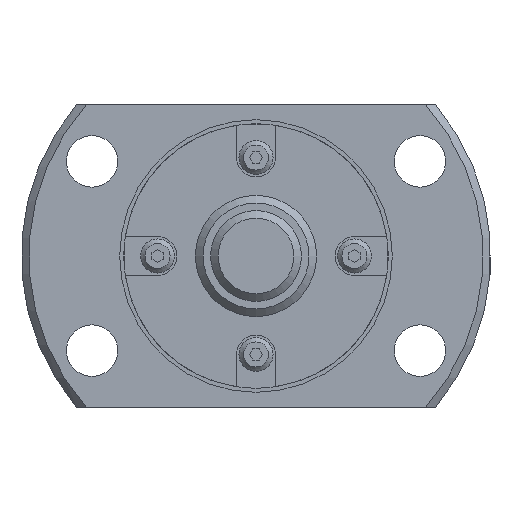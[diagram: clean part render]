
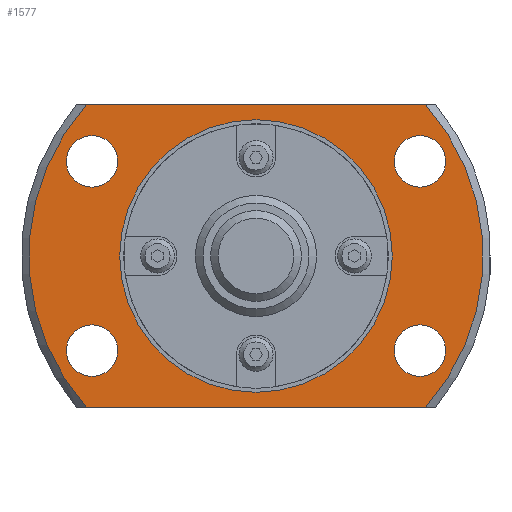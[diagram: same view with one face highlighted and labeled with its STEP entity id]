
A CAD part, left-side view. The second image highlights one B-rep face of the part: STEP entity #1577.
In plain terms, the highlighted planar face has unit normal (-1, 0, 0).
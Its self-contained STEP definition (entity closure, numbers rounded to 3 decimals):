
#102=CIRCLE('',#1724,15.);
#123=CIRCLE('',#1753,8.725);
#124=CIRCLE('',#1755,1.7);
#125=CIRCLE('',#1756,1.7);
#126=CIRCLE('',#1757,1.7);
#127=CIRCLE('',#1758,1.7);
#128=CIRCLE('',#1759,15.);
#294=ORIENTED_EDGE('',*,*,#665,.T.);
#295=ORIENTED_EDGE('',*,*,#666,.T.);
#296=ORIENTED_EDGE('',*,*,#667,.T.);
#297=ORIENTED_EDGE('',*,*,#668,.T.);
#298=ORIENTED_EDGE('',*,*,#622,.F.);
#299=ORIENTED_EDGE('',*,*,#669,.T.);
#300=ORIENTED_EDGE('',*,*,#670,.F.);
#301=ORIENTED_EDGE('',*,*,#671,.T.);
#302=ORIENTED_EDGE('',*,*,#664,.T.);
#622=EDGE_CURVE('',#821,#822,#102,.T.);
#664=EDGE_CURVE('',#858,#858,#123,.T.);
#665=EDGE_CURVE('',#859,#859,#124,.T.);
#666=EDGE_CURVE('',#860,#860,#125,.T.);
#667=EDGE_CURVE('',#861,#861,#126,.T.);
#668=EDGE_CURVE('',#862,#862,#127,.T.);
#669=EDGE_CURVE('',#821,#863,#970,.T.);
#670=EDGE_CURVE('',#864,#863,#128,.T.);
#671=EDGE_CURVE('',#864,#822,#971,.T.);
#821=VERTEX_POINT('',#2481);
#822=VERTEX_POINT('',#2483);
#858=VERTEX_POINT('',#2578);
#859=VERTEX_POINT('',#2581);
#860=VERTEX_POINT('',#2583);
#861=VERTEX_POINT('',#2585);
#862=VERTEX_POINT('',#2587);
#863=VERTEX_POINT('',#2589);
#864=VERTEX_POINT('',#2591);
#970=LINE('',#2588,#1092);
#971=LINE('',#2592,#1093);
#1092=VECTOR('',#2081,1000.);
#1093=VECTOR('',#2084,1000.);
#1221=EDGE_LOOP('',(#294));
#1222=EDGE_LOOP('',(#295));
#1223=EDGE_LOOP('',(#296));
#1224=EDGE_LOOP('',(#297));
#1225=EDGE_LOOP('',(#298,#299,#300,#301));
#1226=EDGE_LOOP('',(#302));
#1379=FACE_BOUND('',#1221,.T.);
#1380=FACE_BOUND('',#1222,.T.);
#1381=FACE_BOUND('',#1223,.T.);
#1382=FACE_BOUND('',#1224,.T.);
#1383=FACE_BOUND('',#1225,.T.);
#1384=FACE_BOUND('',#1226,.T.);
#1496=PLANE('',#1754);
#1577=ADVANCED_FACE('',(#1379,#1380,#1381,#1382,#1383,#1384),#1496,.F.);
#1724=AXIS2_PLACEMENT_3D('',#2482,#1993,#1994);
#1753=AXIS2_PLACEMENT_3D('',#2577,#2069,#2070);
#1754=AXIS2_PLACEMENT_3D('',#2579,#2071,#2072);
#1755=AXIS2_PLACEMENT_3D('',#2580,#2073,#2074);
#1756=AXIS2_PLACEMENT_3D('',#2582,#2075,#2076);
#1757=AXIS2_PLACEMENT_3D('',#2584,#2077,#2078);
#1758=AXIS2_PLACEMENT_3D('',#2586,#2079,#2080);
#1759=AXIS2_PLACEMENT_3D('',#2590,#2082,#2083);
#1993=DIRECTION('',(1.,0.,0.));
#1994=DIRECTION('',(0.,0.,-1.));
#2069=DIRECTION('',(1.,0.,0.));
#2070=DIRECTION('',(0.,0.,-1.));
#2071=DIRECTION('',(1.,0.,0.));
#2072=DIRECTION('',(0.,0.,-1.));
#2073=DIRECTION('',(1.,0.,0.));
#2074=DIRECTION('',(0.,0.,-1.));
#2075=DIRECTION('',(1.,0.,0.));
#2076=DIRECTION('',(0.,0.,-1.));
#2077=DIRECTION('',(1.,0.,0.));
#2078=DIRECTION('',(0.,0.,-1.));
#2079=DIRECTION('',(1.,0.,0.));
#2080=DIRECTION('',(0.,0.,-1.));
#2081=DIRECTION('',(0.,-1.,0.));
#2082=DIRECTION('',(1.,0.,0.));
#2083=DIRECTION('',(0.,0.,-1.));
#2084=DIRECTION('',(0.,1.,0.));
#2481=CARTESIAN_POINT('',(10.,11.18,-10.));
#2482=CARTESIAN_POINT('',(10.,0.,0.));
#2483=CARTESIAN_POINT('',(10.,11.18,10.));
#2577=CARTESIAN_POINT('',(10.,0.,0.));
#2578=CARTESIAN_POINT('',(10.,0.,-8.725));
#2579=CARTESIAN_POINT('',(10.,8.725,0.));
#2580=CARTESIAN_POINT('',(10.,-10.825,-6.25));
#2581=CARTESIAN_POINT('',(10.,-10.825,-7.95));
#2582=CARTESIAN_POINT('',(10.,-10.825,6.25));
#2583=CARTESIAN_POINT('',(10.,-10.825,4.55));
#2584=CARTESIAN_POINT('',(10.,10.825,-6.25));
#2585=CARTESIAN_POINT('',(10.,10.825,-7.95));
#2586=CARTESIAN_POINT('',(10.,10.825,6.25));
#2587=CARTESIAN_POINT('',(10.,10.825,4.55));
#2588=CARTESIAN_POINT('',(10.,8.725,-10.));
#2589=CARTESIAN_POINT('',(10.,-11.18,-10.));
#2590=CARTESIAN_POINT('',(10.,0.,0.));
#2591=CARTESIAN_POINT('',(10.,-11.18,10.));
#2592=CARTESIAN_POINT('',(10.,8.725,10.));
